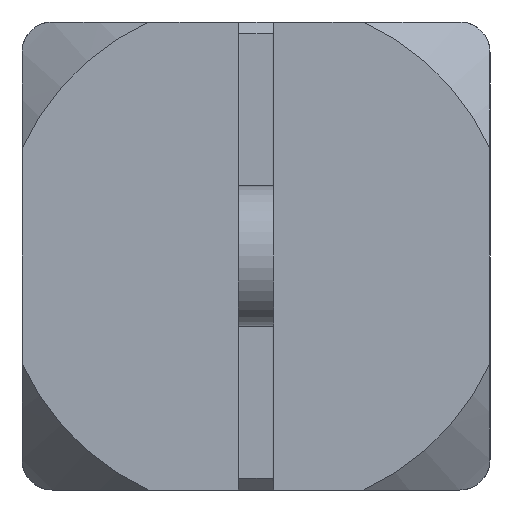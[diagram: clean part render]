
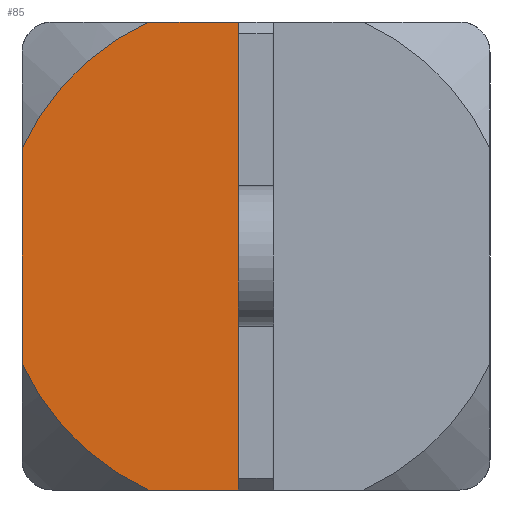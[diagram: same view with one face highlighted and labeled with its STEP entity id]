
A CAD part, left-side view. The second image highlights one B-rep face of the part: STEP entity #85.
In plain terms, the highlighted planar face has unit normal (-1, 0, 0).
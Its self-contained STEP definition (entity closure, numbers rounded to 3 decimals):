
#85 = ADVANCED_FACE( '', ( #185 ), #186, .F. );
#185 = FACE_OUTER_BOUND( '', #385, .T. );
#186 = PLANE( '', #386 );
#385 = EDGE_LOOP( '', ( #663, #664, #665, #666, #667, #668 ) );
#386 = AXIS2_PLACEMENT_3D( '', #669, #670, #671 );
#663 = ORIENTED_EDGE( '', *, *, #1291, .F. );
#664 = ORIENTED_EDGE( '', *, *, #1292, .F. );
#665 = ORIENTED_EDGE( '', *, *, #1293, .F. );
#666 = ORIENTED_EDGE( '', *, *, #1294, .T. );
#667 = ORIENTED_EDGE( '', *, *, #1295, .F. );
#668 = ORIENTED_EDGE( '', *, *, #1296, .T. );
#669 = CARTESIAN_POINT( '', ( -20.5, 10., 10. ) );
#670 = DIRECTION( '', ( 1., 0., 0. ) );
#671 = DIRECTION( '', ( 0., 0., -1. ) );
#1291 = EDGE_CURVE( '', #1551, #1552, #1553, .T. );
#1292 = EDGE_CURVE( '', #1554, #1551, #1555, .T. );
#1293 = EDGE_CURVE( '', #1556, #1554, #1557, .T. );
#1294 = EDGE_CURVE( '', #1556, #1558, #1559, .T. );
#1295 = EDGE_CURVE( '', #1560, #1558, #1561, .T. );
#1296 = EDGE_CURVE( '', #1560, #1552, #1562, .T. );
#1551 = VERTEX_POINT( '', #2032 );
#1552 = VERTEX_POINT( '', #2033 );
#1553 = LINE( '', #2034, #2035 );
#1554 = VERTEX_POINT( '', #2036 );
#1555 = LINE( '', #2037, #2038 );
#1556 = VERTEX_POINT( '', #2039 );
#1557 = CIRCLE( '', #2040, 11. );
#1558 = VERTEX_POINT( '', #2041 );
#1559 = LINE( '', #2042, #2043 );
#1560 = VERTEX_POINT( '', #2044 );
#1561 = CIRCLE( '', #2045, 11. );
#1562 = LINE( '', #2046, #2047 );
#2032 = CARTESIAN_POINT( '', ( -20.5, 0.75, 10. ) );
#2033 = CARTESIAN_POINT( '', ( -20.5, 0.75, -10. ) );
#2034 = CARTESIAN_POINT( '', ( -20.5, 0.75, 10. ) );
#2035 = VECTOR( '', #2535, 1000. );
#2036 = CARTESIAN_POINT( '', ( -20.5, 4.583, 10. ) );
#2037 = CARTESIAN_POINT( '', ( -20.5, 10., 10. ) );
#2038 = VECTOR( '', #2536, 1000. );
#2039 = CARTESIAN_POINT( '', ( -20.5, 10., 4.583 ) );
#2040 = AXIS2_PLACEMENT_3D( '', #2537, #2538, #2539 );
#2041 = CARTESIAN_POINT( '', ( -20.5, 10., -4.583 ) );
#2042 = CARTESIAN_POINT( '', ( -20.5, 10., 10. ) );
#2043 = VECTOR( '', #2540, 1000. );
#2044 = CARTESIAN_POINT( '', ( -20.5, 4.583, -10. ) );
#2045 = AXIS2_PLACEMENT_3D( '', #2541, #2542, #2543 );
#2046 = CARTESIAN_POINT( '', ( -20.5, 10., -10. ) );
#2047 = VECTOR( '', #2544, 1000. );
#2535 = DIRECTION( '', ( 0., 0., -1. ) );
#2536 = DIRECTION( '', ( 0., -1., 0. ) );
#2537 = CARTESIAN_POINT( '', ( -20.5, 0., 0. ) );
#2538 = DIRECTION( '', ( 1., 0., 0. ) );
#2539 = DIRECTION( '', ( 0., 0., -1. ) );
#2540 = DIRECTION( '', ( 0., 0., -1. ) );
#2541 = CARTESIAN_POINT( '', ( -20.5, 0., 0. ) );
#2542 = DIRECTION( '', ( 1., 0., 0. ) );
#2543 = DIRECTION( '', ( 0., 0., -1. ) );
#2544 = DIRECTION( '', ( 0., -1., 0. ) );
